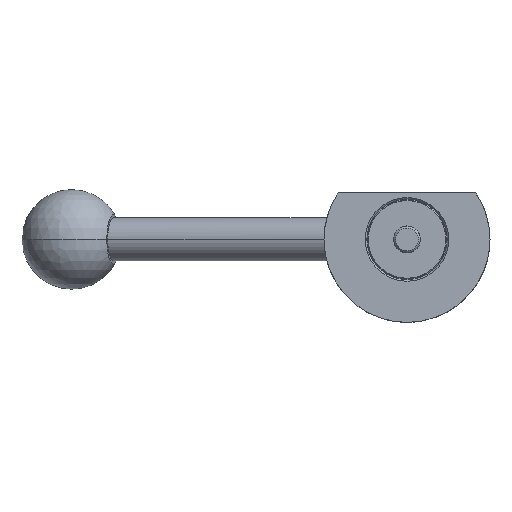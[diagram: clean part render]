
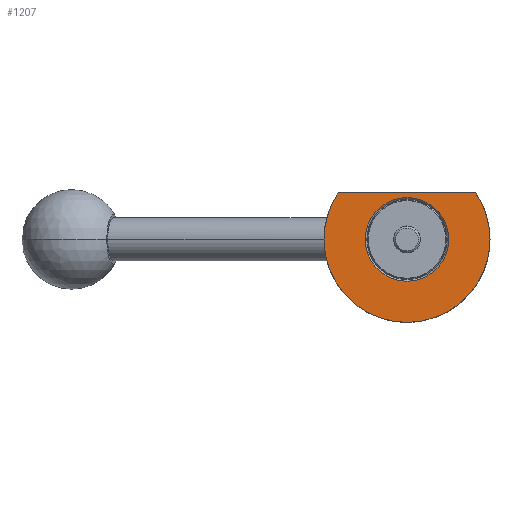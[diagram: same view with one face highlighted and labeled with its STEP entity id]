
A CAD part, front view. The second image highlights one B-rep face of the part: STEP entity #1207.
In plain terms, the highlighted planar face has unit normal (0, -1, 0).
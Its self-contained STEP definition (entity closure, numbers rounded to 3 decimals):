
#39 = CARTESIAN_POINT ( 'NONE',  ( 25., -12., 0. ) ) ;
#40 = CARTESIAN_POINT ( 'NONE',  ( -12.6, -12., 0. ) ) ;
#92 = CIRCLE ( 'NONE', #1127, 25. ) ;
#107 = CARTESIAN_POINT ( 'NONE',  ( 0., -12., 0. ) ) ;
#117 = VERTEX_POINT ( 'NONE', #39 ) ;
#187 = EDGE_CURVE ( 'NONE', #1643, #789, #1064, .T. ) ;
#189 = PLANE ( 'NONE',  #548 ) ;
#197 = CARTESIAN_POINT ( 'NONE',  ( 20.712, -12., 14. ) ) ;
#235 = CARTESIAN_POINT ( 'NONE',  ( 0., -12., 0. ) ) ;
#239 = CARTESIAN_POINT ( 'NONE',  ( -20.712, -12., 14. ) ) ;
#277 = DIRECTION ( 'NONE',  ( -1., 0., 0. ) ) ;
#336 = CARTESIAN_POINT ( 'NONE',  ( 0., -12., 0. ) ) ;
#338 = DIRECTION ( 'NONE',  ( 1., 0., 0. ) ) ;
#354 = DIRECTION ( 'NONE',  ( -1., 0., 0. ) ) ;
#451 = FACE_OUTER_BOUND ( 'NONE', #738, .T. ) ;
#541 = CARTESIAN_POINT ( 'NONE',  ( -12.6, -12., 14. ) ) ;
#548 = AXIS2_PLACEMENT_3D ( 'NONE', #785, #1601, #338 ) ;
#570 = EDGE_LOOP ( 'NONE', ( #970, #900 ) ) ;
#578 = CIRCLE ( 'NONE', #1325, 12.6 ) ;
#663 = CARTESIAN_POINT ( 'NONE',  ( 0., -12., 0. ) ) ;
#735 = DIRECTION ( 'NONE',  ( 0., 1., 0. ) ) ;
#738 = EDGE_LOOP ( 'NONE', ( #901, #1720, #758, #1176 ) ) ;
#758 = ORIENTED_EDGE ( 'NONE', *, *, #1394, .F. ) ;
#776 = CIRCLE ( 'NONE', #1178, 12.6 ) ;
#779 = DIRECTION ( 'NONE',  ( -1., 0., 0. ) ) ;
#785 = CARTESIAN_POINT ( 'NONE',  ( -12.6, -12., 0. ) ) ;
#789 = VERTEX_POINT ( 'NONE', #239 ) ;
#874 = EDGE_CURVE ( 'NONE', #1044, #1110, #578, .T. ) ;
#900 = ORIENTED_EDGE ( 'NONE', *, *, #874, .T. ) ;
#901 = ORIENTED_EDGE ( 'NONE', *, *, #1561, .F. ) ;
#944 = VECTOR ( 'NONE', #1505, 1000. ) ;
#960 = DIRECTION ( 'NONE',  ( 0., 1., 0. ) ) ;
#970 = ORIENTED_EDGE ( 'NONE', *, *, #1704, .T. ) ;
#982 = DIRECTION ( 'NONE',  ( 0., 1., 0. ) ) ;
#1044 = VERTEX_POINT ( 'NONE', #40 ) ;
#1064 = LINE ( 'NONE', #541, #944 ) ;
#1110 = VERTEX_POINT ( 'NONE', #1261 ) ;
#1127 = AXIS2_PLACEMENT_3D ( 'NONE', #1838, #735, #277 ) ;
#1176 = ORIENTED_EDGE ( 'NONE', *, *, #1713, .F. ) ;
#1178 = AXIS2_PLACEMENT_3D ( 'NONE', #663, #1805, #354 ) ;
#1199 = VERTEX_POINT ( 'NONE', #1578 ) ;
#1207 = ADVANCED_FACE ( 'NONE', ( #1759, #451 ), #189, .T. ) ;
#1261 = CARTESIAN_POINT ( 'NONE',  ( 12.6, -12., 0. ) ) ;
#1321 = AXIS2_PLACEMENT_3D ( 'NONE', #235, #982, #1938 ) ;
#1325 = AXIS2_PLACEMENT_3D ( 'NONE', #107, #1672, #1871 ) ;
#1394 = EDGE_CURVE ( 'NONE', #1199, #789, #92, .T. ) ;
#1505 = DIRECTION ( 'NONE',  ( -1., 0., 0. ) ) ;
#1561 = EDGE_CURVE ( 'NONE', #1643, #117, #1886, .T. ) ;
#1578 = CARTESIAN_POINT ( 'NONE',  ( -25., -12., 0. ) ) ;
#1601 = DIRECTION ( 'NONE',  ( 0., -1., 0. ) ) ;
#1616 = CIRCLE ( 'NONE', #1321, 25. ) ;
#1643 = VERTEX_POINT ( 'NONE', #197 ) ;
#1672 = DIRECTION ( 'NONE',  ( 0., 1., 0. ) ) ;
#1704 = EDGE_CURVE ( 'NONE', #1110, #1044, #776, .T. ) ;
#1713 = EDGE_CURVE ( 'NONE', #117, #1199, #1616, .T. ) ;
#1720 = ORIENTED_EDGE ( 'NONE', *, *, #187, .T. ) ;
#1759 = FACE_BOUND ( 'NONE', #570, .T. ) ;
#1805 = DIRECTION ( 'NONE',  ( 0., 1., 0. ) ) ;
#1838 = CARTESIAN_POINT ( 'NONE',  ( 0., -12., 0. ) ) ;
#1871 = DIRECTION ( 'NONE',  ( -1., 0., 0. ) ) ;
#1886 = CIRCLE ( 'NONE', #2007, 25. ) ;
#1938 = DIRECTION ( 'NONE',  ( -1., 0., 0. ) ) ;
#2007 = AXIS2_PLACEMENT_3D ( 'NONE', #336, #960, #779 ) ;
